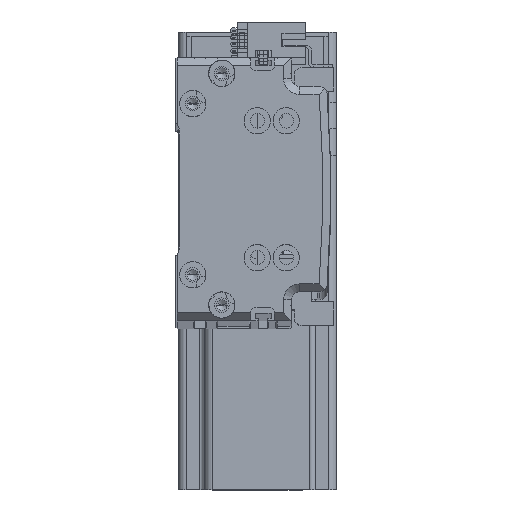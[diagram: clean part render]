
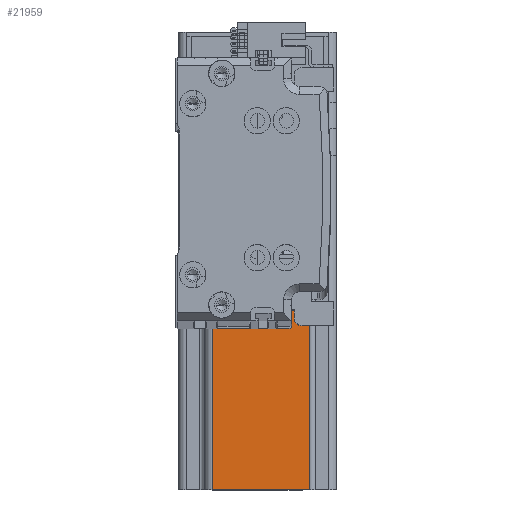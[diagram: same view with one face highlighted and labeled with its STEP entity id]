
A CAD part, top view. The second image highlights one B-rep face of the part: STEP entity #21959.
In plain terms, the highlighted planar face has unit normal (0, 0, 1) as drawn and (-1, 0, 0) by its records, which use the part's own axes.
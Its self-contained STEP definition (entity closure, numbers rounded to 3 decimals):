
#4473 = VERTEX_POINT ( 'NONE', #29084 ) ;
#4704 = DIRECTION ( 'NONE',  ( 0., 0., -1. ) ) ;
#4730 = CARTESIAN_POINT ( 'NONE',  ( -30., -17., 137. ) ) ;
#5500 = AXIS2_PLACEMENT_3D ( 'NONE', #45346, #16473, #50192 ) ;
#5531 = VECTOR ( 'NONE', #4704, 1000. ) ;
#9730 = LINE ( 'NONE', #17991, #21058 ) ;
#9850 = LINE ( 'NONE', #24153, #33995 ) ;
#10938 = DIRECTION ( 'NONE',  ( 0., 1., 0. ) ) ;
#13558 = CARTESIAN_POINT ( 'NONE',  ( -30., 27., 0. ) ) ;
#15317 = VECTOR ( 'NONE', #10938, 1000. ) ;
#15629 = EDGE_CURVE ( 'NONE', #33164, #31604, #9850, .T. ) ;
#16026 = EDGE_CURVE ( 'NONE', #27531, #52817, #39980, .T. ) ;
#16147 = ORIENTED_EDGE ( 'NONE', *, *, #15629, .F. ) ;
#16473 = DIRECTION ( 'NONE',  ( 1., 0., 0. ) ) ;
#17991 = CARTESIAN_POINT ( 'NONE',  ( -30., -30., 10. ) ) ;
#18785 = DIRECTION ( 'NONE',  ( 0., -1., 0. ) ) ;
#18999 = CARTESIAN_POINT ( 'NONE',  ( -30., -30., 137. ) ) ;
#20981 = LINE ( 'NONE', #23292, #57947 ) ;
#21058 = VECTOR ( 'NONE', #61232, 1000. ) ;
#21959 = ADVANCED_FACE ( 'NONE', ( #34281 ), #25945, .F. ) ;
#23292 = CARTESIAN_POINT ( 'NONE',  ( -30., -30., 0. ) ) ;
#24046 = VECTOR ( 'NONE', #52828, 1000. ) ;
#24153 = CARTESIAN_POINT ( 'NONE',  ( -30., 20., 10. ) ) ;
#24734 = DIRECTION ( 'NONE',  ( 0., 0., 1. ) ) ;
#25945 = PLANE ( 'NONE',  #5500 ) ;
#26206 = CARTESIAN_POINT ( 'NONE',  ( -30., -17., 137. ) ) ;
#26470 = ORIENTED_EDGE ( 'NONE', *, *, #59755, .T. ) ;
#26488 = ORIENTED_EDGE ( 'NONE', *, *, #61542, .F. ) ;
#26611 = LINE ( 'NONE', #44695, #15317 ) ;
#26642 = LINE ( 'NONE', #53281, #39510 ) ;
#26714 = VERTEX_POINT ( 'NONE', #49929 ) ;
#27461 = VERTEX_POINT ( 'NONE', #13558 ) ;
#27531 = VERTEX_POINT ( 'NONE', #56981 ) ;
#28013 = ORIENTED_EDGE ( 'NONE', *, *, #30700, .F. ) ;
#28460 = ORIENTED_EDGE ( 'NONE', *, *, #44183, .T. ) ;
#28741 = CARTESIAN_POINT ( 'NONE',  ( -30., 27., 137. ) ) ;
#29084 = CARTESIAN_POINT ( 'NONE',  ( -30., -27., 0. ) ) ;
#30473 = CARTESIAN_POINT ( 'NONE',  ( -30., 20., 10. ) ) ;
#30700 = EDGE_CURVE ( 'NONE', #31604, #52817, #40070, .T. ) ;
#31167 = LINE ( 'NONE', #28741, #5531 ) ;
#31604 = VERTEX_POINT ( 'NONE', #60637 ) ;
#33164 = VERTEX_POINT ( 'NONE', #30473 ) ;
#33995 = VECTOR ( 'NONE', #43590, 1000. ) ;
#34281 = FACE_OUTER_BOUND ( 'NONE', #53058, .T. ) ;
#39510 = VECTOR ( 'NONE', #24734, 1000. ) ;
#39980 = LINE ( 'NONE', #4730, #24046 ) ;
#40070 = LINE ( 'NONE', #18999, #52910 ) ;
#42187 = EDGE_CURVE ( 'NONE', #4473, #49191, #26642, .T. ) ;
#43590 = DIRECTION ( 'NONE',  ( 0., 0., 1. ) ) ;
#44183 = EDGE_CURVE ( 'NONE', #27461, #4473, #20981, .T. ) ;
#44695 = CARTESIAN_POINT ( 'NONE',  ( -30., 30., 10. ) ) ;
#45346 = CARTESIAN_POINT ( 'NONE',  ( -30., -30., 137. ) ) ;
#45586 = ORIENTED_EDGE ( 'NONE', *, *, #16026, .T. ) ;
#49110 = CARTESIAN_POINT ( 'NONE',  ( -30., -27., 10. ) ) ;
#49191 = VERTEX_POINT ( 'NONE', #49110 ) ;
#49929 = CARTESIAN_POINT ( 'NONE',  ( -30., 27., 10. ) ) ;
#50192 = DIRECTION ( 'NONE',  ( 0., 0., -1. ) ) ;
#50985 = EDGE_CURVE ( 'NONE', #26714, #27461, #31167, .T. ) ;
#52817 = VERTEX_POINT ( 'NONE', #26206 ) ;
#52828 = DIRECTION ( 'NONE',  ( 0., 0., 1. ) ) ;
#52910 = VECTOR ( 'NONE', #18785, 1000. ) ;
#53058 = EDGE_LOOP ( 'NONE', ( #26488, #45586, #28013, #16147, #26470, #58320, #28460, #57566 ) ) ;
#53281 = CARTESIAN_POINT ( 'NONE',  ( -30., -27., 137. ) ) ;
#56981 = CARTESIAN_POINT ( 'NONE',  ( -30., -17., 10. ) ) ;
#57064 = DIRECTION ( 'NONE',  ( 0., -1., 0. ) ) ;
#57566 = ORIENTED_EDGE ( 'NONE', *, *, #42187, .T. ) ;
#57947 = VECTOR ( 'NONE', #57064, 1000. ) ;
#58320 = ORIENTED_EDGE ( 'NONE', *, *, #50985, .T. ) ;
#59755 = EDGE_CURVE ( 'NONE', #33164, #26714, #26611, .T. ) ;
#60637 = CARTESIAN_POINT ( 'NONE',  ( -30., 20., 137. ) ) ;
#61232 = DIRECTION ( 'NONE',  ( 0., -1., 0. ) ) ;
#61542 = EDGE_CURVE ( 'NONE', #27531, #49191, #9730, .T. ) ;
